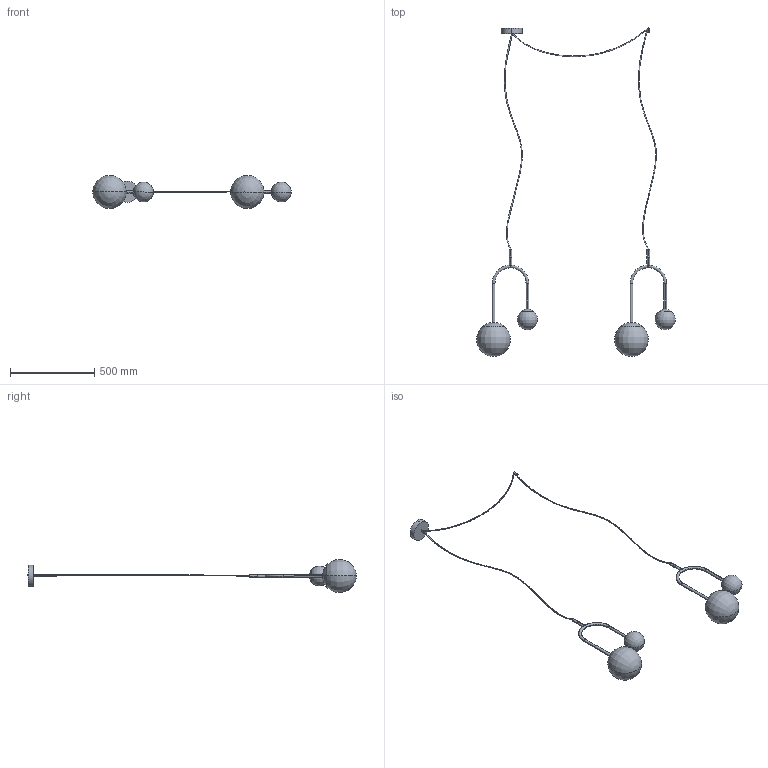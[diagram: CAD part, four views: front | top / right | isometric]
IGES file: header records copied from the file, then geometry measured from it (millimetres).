
Start section: SolidWorks IGES file using analytic representation for surfaces
Global section: file name: Y:\eforma\TECNICO\SOLIDWORKS\E-FORMA\09-LAMPADE\DECOR\02 parts\DEC02_Decor 2 sospensione.IGS; native system: SolidWorks 2022; preprocessor: SolidWorks 2022; author: eforma.tech; date: 240806.104124; units: millimetre
Bounding box: 1175.94 x 1947.15 x 194.5 mm (x, y, z)
Volume: 10949065.1 mm3; surface area: 508270.3 mm2
Topology: 4 solids, 4 shells, 80 faces, 177 edges, 106 vertices
Faces by surface type: revolution 45, bspline 19, plane 16
